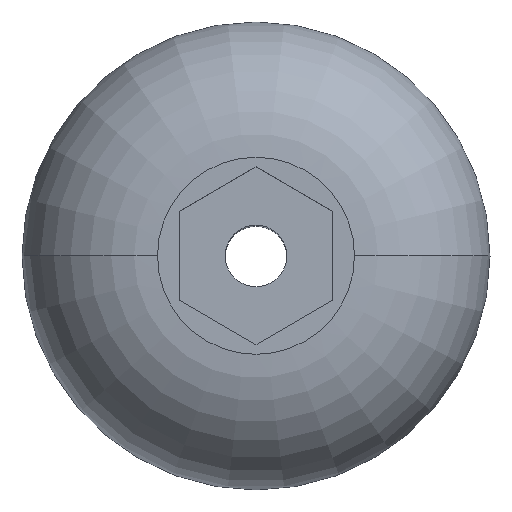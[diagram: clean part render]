
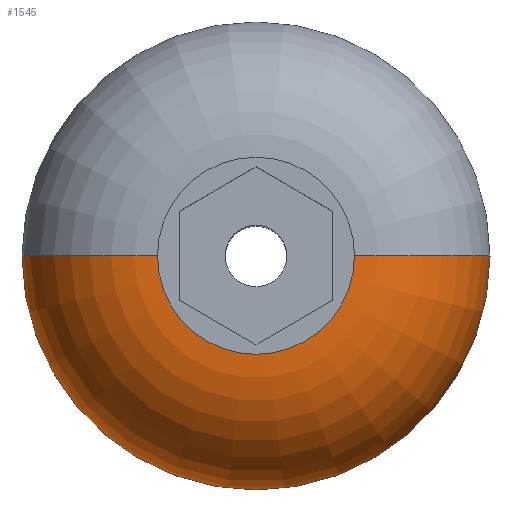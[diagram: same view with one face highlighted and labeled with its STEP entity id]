
A CAD part, top view. The second image highlights one B-rep face of the part: STEP entity #1545.
In plain terms, the highlighted toroidal (fillet/blend) face has major radius 1.6 mm and minor radius 2.2 mm.
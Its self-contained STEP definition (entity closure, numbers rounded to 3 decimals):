
#40 = CARTESIAN_POINT ( 'NONE',  ( 1.6, 0., 2.2 ) ) ;
#43 = AXIS2_PLACEMENT_3D ( 'NONE', #679, #1712, #57 ) ;
#57 = DIRECTION ( 'NONE',  ( 1., 0., 0. ) ) ;
#125 = CIRCLE ( 'NONE', #1336, 2.2 ) ;
#152 = CARTESIAN_POINT ( 'NONE',  ( 0., 0., 0. ) ) ;
#218 = VERTEX_POINT ( 'NONE', #899 ) ;
#241 = CARTESIAN_POINT ( 'NONE',  ( 3.8, 0., 0. ) ) ;
#244 = DIRECTION ( 'NONE',  ( 0., 0., 1. ) ) ;
#297 = CIRCLE ( 'NONE', #680, 2.2 ) ;
#311 = FACE_OUTER_BOUND ( 'NONE', #326, .T. ) ;
#326 = EDGE_LOOP ( 'NONE', ( #737, #1494, #1908, #1855 ) ) ;
#385 = EDGE_CURVE ( 'NONE', #1238, #1837, #1904, .T. ) ;
#457 = DIRECTION ( 'NONE',  ( 1., 0., 0. ) ) ;
#514 = DIRECTION ( 'NONE',  ( 0., 1., 0. ) ) ;
#553 = EDGE_CURVE ( 'NONE', #218, #1603, #583, .T. ) ;
#567 = AXIS2_PLACEMENT_3D ( 'NONE', #152, #1353, #457 ) ;
#583 = CIRCLE ( 'NONE', #925, 1.6 ) ;
#679 = CARTESIAN_POINT ( 'NONE',  ( 0., 0., 0. ) ) ;
#680 = AXIS2_PLACEMENT_3D ( 'NONE', #1581, #514, #1273 ) ;
#737 = ORIENTED_EDGE ( 'NONE', *, *, #1766, .F. ) ;
#842 = DIRECTION ( 'NONE',  ( 1., 0., 0. ) ) ;
#899 = CARTESIAN_POINT ( 'NONE',  ( -1.6, 0., 2.2 ) ) ;
#925 = AXIS2_PLACEMENT_3D ( 'NONE', #1135, #244, #842 ) ;
#981 = CARTESIAN_POINT ( 'NONE',  ( 1.6, 0., 0. ) ) ;
#1135 = CARTESIAN_POINT ( 'NONE',  ( 0., 0., 2.2 ) ) ;
#1146 = EDGE_CURVE ( 'NONE', #1837, #1603, #125, .T. ) ;
#1238 = VERTEX_POINT ( 'NONE', #1467 ) ;
#1273 = DIRECTION ( 'NONE',  ( -1., 0., 0. ) ) ;
#1336 = AXIS2_PLACEMENT_3D ( 'NONE', #981, #1570, #1591 ) ;
#1353 = DIRECTION ( 'NONE',  ( 0., 0., 1. ) ) ;
#1410 = TOROIDAL_SURFACE ( 'NONE', #567, 1.6, 2.2 ) ;
#1467 = CARTESIAN_POINT ( 'NONE',  ( -3.8, 0., 0. ) ) ;
#1494 = ORIENTED_EDGE ( 'NONE', *, *, #385, .T. ) ;
#1545 = ADVANCED_FACE ( 'NONE', ( #311 ), #1410, .T. ) ;
#1570 = DIRECTION ( 'NONE',  ( 0., -1., 0. ) ) ;
#1581 = CARTESIAN_POINT ( 'NONE',  ( -1.6, 0., 0. ) ) ;
#1591 = DIRECTION ( 'NONE',  ( 0., 0., -1. ) ) ;
#1603 = VERTEX_POINT ( 'NONE', #40 ) ;
#1712 = DIRECTION ( 'NONE',  ( 0., 0., 1. ) ) ;
#1766 = EDGE_CURVE ( 'NONE', #1238, #218, #297, .T. ) ;
#1837 = VERTEX_POINT ( 'NONE', #241 ) ;
#1855 = ORIENTED_EDGE ( 'NONE', *, *, #553, .F. ) ;
#1904 = CIRCLE ( 'NONE', #43, 3.8 ) ;
#1908 = ORIENTED_EDGE ( 'NONE', *, *, #1146, .T. ) ;
